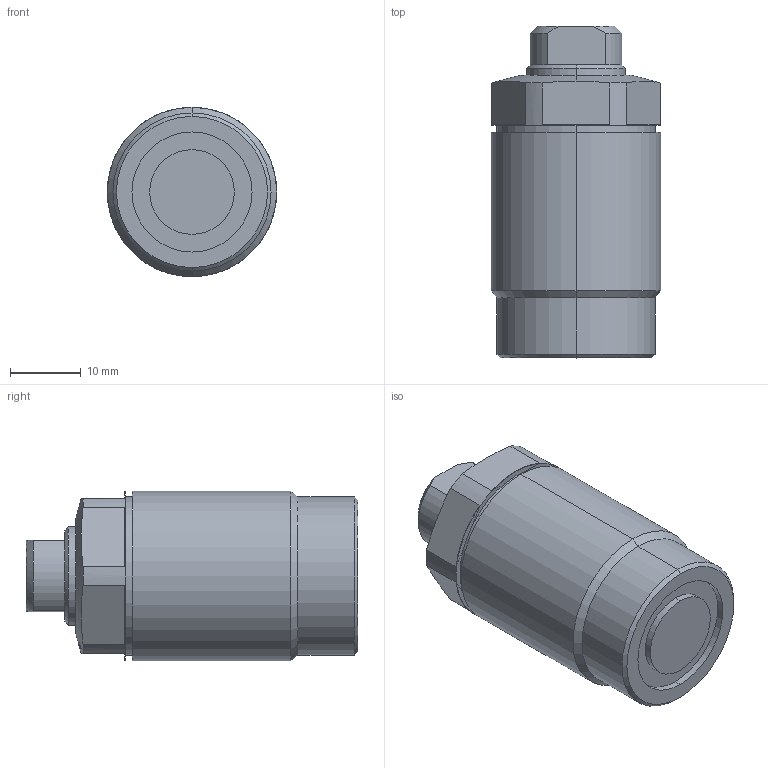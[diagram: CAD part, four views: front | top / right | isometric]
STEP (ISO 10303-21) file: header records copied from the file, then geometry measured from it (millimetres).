
FILE_DESCRIPTION (( 'STEP AP203' ), '1' );
FILE_NAME ('T03C-M242-M threaded pusher.STEP', '2022-07-09T17:37:31', ( '' ), ( '' ), 'SwSTEP 2.0', 'SolidWorks 2017', '' );
FILE_SCHEMA (( 'CONFIG_CONTROL_DESIGN' ));
Length unit declared in the file: millimetre
Products named in the file (3): T03C-M242-M part-1; T03C-M242-M part-2; T03C-M242-M threaded pusher
Assembly tree (2 placements, depth 2):
  T03C-M242-M threaded pusher
    T03C-M242-M part-1
    T03C-M242-M part-2
Bounding box: 24 x 47 x 24 mm (x, y, z)
Volume: 23350.8 mm3; surface area: 6328.6 mm2
Topology: 2 solids, 2 shells, 250 faces, 664 edges, 437 vertices
Faces by surface type: plane 143, bspline 74, cylinder 18, cone 15
Entity records: 11813 total; most frequent: CARTESIAN_POINT 5946, ORIENTED_EDGE 1324, DIRECTION 843, EDGE_CURVE 662, VERTEX_POINT 437, LINE 357, VECTOR 357, EDGE_LOOP 271
